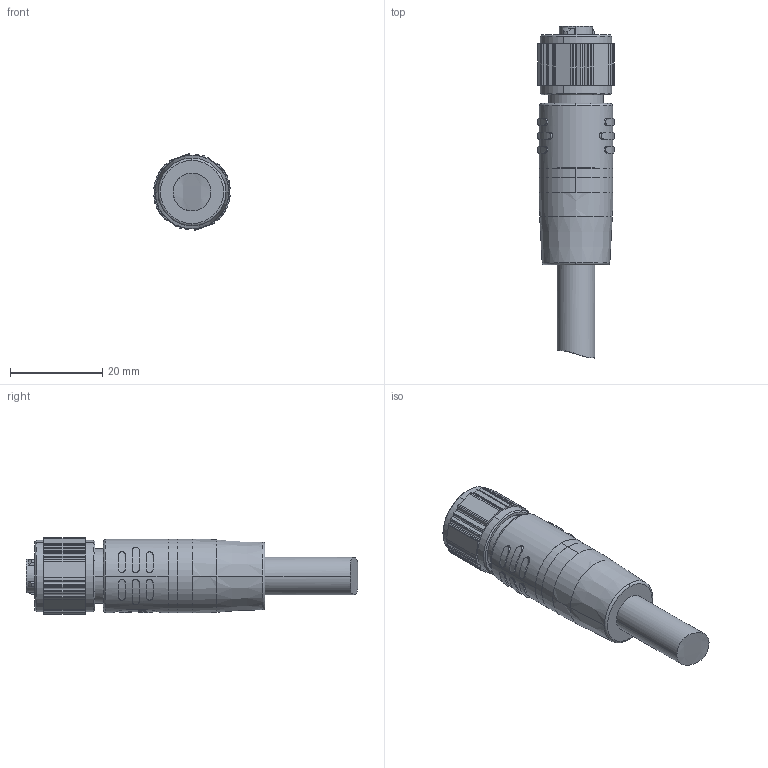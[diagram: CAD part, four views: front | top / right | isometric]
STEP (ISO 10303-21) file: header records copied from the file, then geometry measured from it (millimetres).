
FILE_DESCRIPTION((''),'2;1');
FILE_NAME('_ATYPE0001_16_1_1_1_1_1_1_1_1_1','2023-05-29T18:26:56',('MilletLi'),(''),'CREO PARAMETRIC BY PTC INC, 2019352','CREO PARAMETRIC BY PTC INC, 2019352','');
FILE_SCHEMA(('CONFIG_CONTROL_DESIGN','SHAPE_APPEARANCE_LAYERS_GROUPS'));
Products named in the file (1): _ATYPE0001_16_1_1_1_1_1_1_1_1_1
Bounding box: 16.55 x 71.99 x 16.5 mm (x, y, z)
Volume: 9722.7 mm3; surface area: 9461.1 mm2
Topology: 1 solids, 33 shells, 1166 faces, 2873 edges, 1813 vertices
Faces by surface type: cylinder 462, plane 320, cone 174, bspline 88, extrusion 62, torus 54, revolution 6
Entity records: 82630 total; most frequent: CARTESIAN_POINT 45388, ORIENTED_EDGE 5740, DIRECTION 5527, PRESENTATION_STYLE_ASSIGNMENT 3033, STYLED_ITEM 2892, CURVE_STYLE 2888, EDGE_CURVE 2873, AXIS2_PLACEMENT_3D 2137
